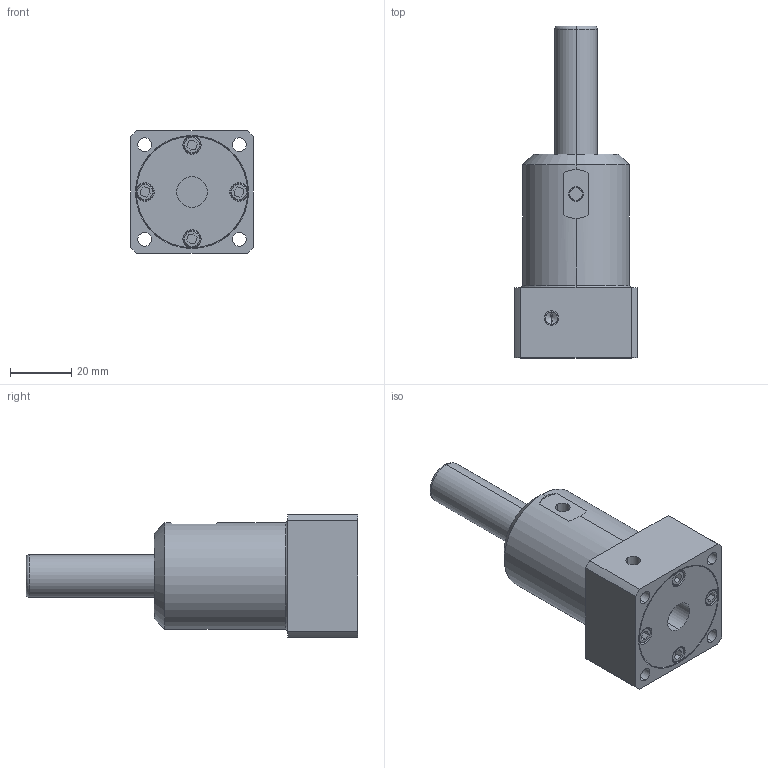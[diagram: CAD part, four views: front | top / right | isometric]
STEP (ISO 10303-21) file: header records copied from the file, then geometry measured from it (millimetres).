
FILE_DESCRIPTION((''),'2;1');
FILE_NAME('001_DESTACO_035_910_ASM','2024-02-29T',('SYSTEM'),(''),'PRO/ENGINEER BY PARAMETRIC TECHNOLOGY CORPORATION, 2016360','PRO/ENGINEER BY PARAMETRIC TECHNOLOGY CORPORATION, 2016360','');
FILE_SCHEMA(('AUTOMOTIVE_DESIGN { 1 0 10303 214 1 1 1 1 }'));
Products named in the file (10): 225BODY_6; 225BODY_5; 225BODY_4; 225BODY_3; 225BODY_2; 225BODY_0; 225-BODY_ASM; 225BODY_1; 225-SHAFT_ASM; 001_DESTACO_035_910_ASM
Assembly tree (9 placements, depth 3):
  001_DESTACO_035_910_ASM
    225-BODY_ASM
      225BODY_6
      225BODY_5
      225BODY_4
      225BODY_3
      225BODY_2
      225BODY_0
    225-SHAFT_ASM
      225BODY_1
Bounding box: 40.06 x 108.61 x 40.06 mm (x, y, z)
Volume: 77063.9 mm3; surface area: 23448.4 mm2
Topology: 7 solids, 7 shells, 158 faces, 367 edges, 234 vertices
Faces by surface type: cylinder 70, plane 60, cone 24, torus 4
Entity records: 6409 total; most frequent: DIRECTION 903, CARTESIAN_POINT 858, ORIENTED_EDGE 726, PRESENTATION_STYLE_ASSIGNMENT 370, STYLED_ITEM 370, CURVE_STYLE 363, EDGE_CURVE 363, AXIS2_PLACEMENT_3D 360
